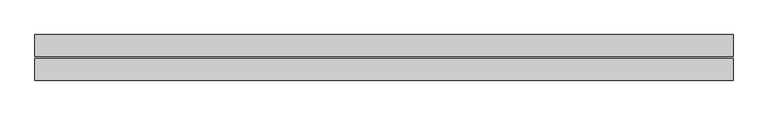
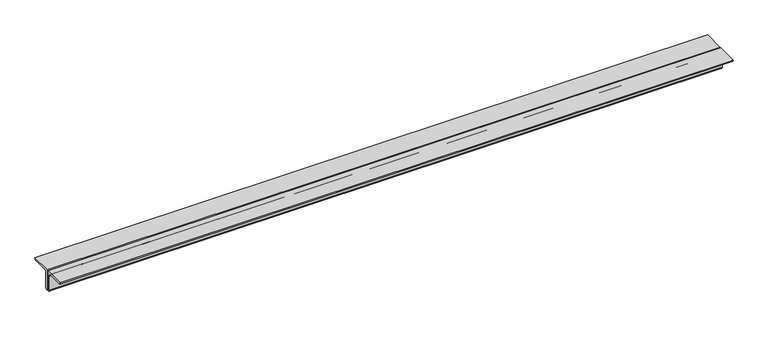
"""IFC4 building model written with IfcOpenShell, lengths in millimetres: beam geometry, Profilati doppi a L : DCED150x12."""

from ifc_helpers import new_model, si_unit, point, frame, frame_2d, origin, place, context, project, spatial, polyline, circle_curve, trimmed, segment, composite_curve, outline, extrude, source, transform, mapped, element, save


def beam_024abb98(model_context):
    return source(origin(), model_context, "Body", "SweptSolid", [
        extrude(outline(composite_curve([segment(polyline([(-6.0, 42.4), (-6.0, -107.6)]), True, "CONTINUOUS"), segment(trimmed(circle_curve(frame_2d((-6.0, -92.6)), 15.0), [point((-6.0, -107.6))], [point((-21.0, -92.6))], False, "CARTESIAN"), True, "CONTINUOUS"), segment(polyline([(-21.0, -92.6), (-21.0, 12.4)]), True, "CONTINUOUS"), segment(trimmed(circle_curve(frame_2d((-36.0, 12.4)), 15.0), [point((-21.0, 12.4))], [point((-36.0, 27.4))], True, "CARTESIAN"), True, "CONTINUOUS"), segment(polyline([(-36.0, 27.4), (-141.0, 27.4)]), True, "CONTINUOUS"), segment(trimmed(circle_curve(frame_2d((-141.0, 42.4)), 15.0), [point((-141.0, 27.4))], [point((-156.0, 42.4))], False, "CARTESIAN"), True, "CONTINUOUS"), segment(polyline([(-156.0, 42.4), (-6.0, 42.4)]), True, "CONTINUOUS")], self_intersect=False)), frame((-2115.0, 0.0, 0.0), z_axis=(1.0, 0.0, 0.0), x_axis=(0.0, 1.0, 0.0)), (0.0, 0.0, 1.0), 4776.0),
        extrude(outline(composite_curve([segment(polyline([(6.0, 42.4), (156.0, 42.4)]), True, "CONTINUOUS"), segment(trimmed(circle_curve(frame_2d((141.0, 42.4)), 15.0), [point((156.0, 42.4))], [point((141.0, 27.4))], False, "CARTESIAN"), True, "CONTINUOUS"), segment(polyline([(141.0, 27.4), (36.0, 27.4)]), True, "CONTINUOUS"), segment(trimmed(circle_curve(frame_2d((36.0, 12.4)), 15.0), [point((36.0, 27.4))], [point((21.0, 12.4))], True, "CARTESIAN"), True, "CONTINUOUS"), segment(polyline([(21.0, 12.4), (21.0, -92.6)]), True, "CONTINUOUS"), segment(trimmed(circle_curve(frame_2d((6.0, -92.6)), 15.0), [point((21.0, -92.6))], [point((6.0, -107.6))], False, "CARTESIAN"), True, "CONTINUOUS"), segment(polyline([(6.0, -107.6), (6.0, 42.4)]), True, "CONTINUOUS")], self_intersect=False)), frame((-2115.0, 0.0, 0.0), z_axis=(1.0, 0.0, 0.0), x_axis=(0.0, 1.0, 0.0)), (0.0, 0.0, 1.0), 4776.0),
    ])


if __name__ == "__main__":
    model = new_model("IFC4")
    model_context = context("Model", 3, world=origin())
    ifc_project = project(units=[si_unit("LENGTHUNIT", "METRE", prefix="MILLI")], contexts=[model_context])
    site = spatial("IfcSite", under=ifc_project)
    building = spatial("IfcBuilding", under=site)
    placement = place(None, origin())
    beam_shape = beam_024abb98(model_context)
    element("IfcBeam", 1, ObjectType="Profilati doppi a L : DCED150x12", at=placement, inside=building, context=model_context, shape_type="MappedRepresentation", body=[
        mapped(beam_shape, transform((0.0, 0.0, 0.0), x_axis=(1.0, 0.0, 0.0), y_axis=(0.0, 1.0, 0.0), z_axis=(0.0, 0.0, 1.0))),
    ])
    save(model, "model.ifc")
